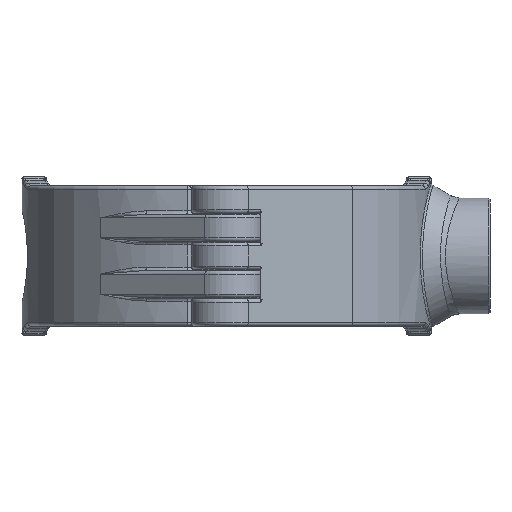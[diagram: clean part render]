
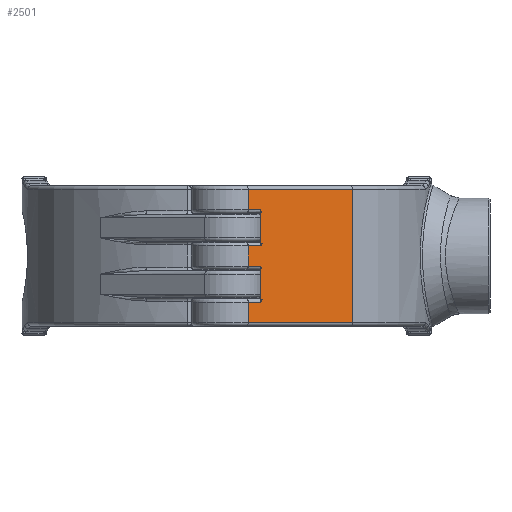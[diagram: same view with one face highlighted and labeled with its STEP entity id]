
A CAD part, front view. The second image highlights one B-rep face of the part: STEP entity #2501.
In plain terms, the highlighted planar face has unit normal (0.616, -0.788, 0).
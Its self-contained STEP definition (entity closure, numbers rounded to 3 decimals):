
#2501=ADVANCED_FACE('',(#3466),#2936,.F.);
#2936=PLANE('',#13825);
#3466=FACE_OUTER_BOUND('',#4377,.T.);
#4377=EDGE_LOOP('',(#7565,#7566,#7567,#7568,#7569,#7570,#7571,#7572,#7573,
#7574,#7575,#7576));
#7565=ORIENTED_EDGE('',*,*,#11295,.F.);
#7566=ORIENTED_EDGE('',*,*,#11296,.T.);
#7567=ORIENTED_EDGE('',*,*,#10862,.F.);
#7568=ORIENTED_EDGE('',*,*,#11297,.T.);
#7569=ORIENTED_EDGE('',*,*,#10791,.T.);
#7570=ORIENTED_EDGE('',*,*,#11298,.T.);
#7571=ORIENTED_EDGE('',*,*,#10808,.F.);
#7572=ORIENTED_EDGE('',*,*,#11299,.T.);
#7573=ORIENTED_EDGE('',*,*,#11300,.F.);
#7574=ORIENTED_EDGE('',*,*,#11301,.T.);
#7575=ORIENTED_EDGE('',*,*,#10802,.F.);
#7576=ORIENTED_EDGE('',*,*,#11302,.T.);
#9334=VERTEX_POINT('',#24106);
#9335=VERTEX_POINT('',#24108);
#9345=VERTEX_POINT('',#24156);
#9346=VERTEX_POINT('',#24158);
#9351=VERTEX_POINT('',#24170);
#9352=VERTEX_POINT('',#24172);
#9403=VERTEX_POINT('',#24409);
#9404=VERTEX_POINT('',#24410);
#9789=VERTEX_POINT('',#27460);
#9790=VERTEX_POINT('',#27461);
#9791=VERTEX_POINT('',#27466);
#9792=VERTEX_POINT('',#27468);
#10791=EDGE_CURVE('',#9335,#9334,#11959,.T.);
#10802=EDGE_CURVE('',#9345,#9346,#11963,.T.);
#10808=EDGE_CURVE('',#9351,#9352,#11965,.T.);
#10862=EDGE_CURVE('',#9403,#9404,#11981,.T.);
#11295=EDGE_CURVE('',#9789,#9790,#12168,.T.);
#11296=EDGE_CURVE('',#9789,#9404,#12169,.T.);
#11297=EDGE_CURVE('',#9403,#9335,#12170,.T.);
#11298=EDGE_CURVE('',#9334,#9352,#12171,.T.);
#11299=EDGE_CURVE('',#9351,#9791,#12172,.T.);
#11300=EDGE_CURVE('',#9792,#9791,#12173,.T.);
#11301=EDGE_CURVE('',#9792,#9346,#12174,.T.);
#11302=EDGE_CURVE('',#9345,#9790,#12175,.T.);
#11959=LINE('',#24107,#12454);
#11963=LINE('',#24157,#12458);
#11965=LINE('',#24171,#12460);
#11981=LINE('',#24408,#12476);
#12168=LINE('',#27459,#12663);
#12169=LINE('',#27462,#12664);
#12170=LINE('',#27463,#12665);
#12171=LINE('',#27464,#12666);
#12172=LINE('',#27465,#12667);
#12173=LINE('',#27467,#12668);
#12174=LINE('',#27469,#12669);
#12175=LINE('',#27470,#12670);
#12454=VECTOR('',#16298,1.);
#12458=VECTOR('',#16312,1.);
#12460=VECTOR('',#16326,1.);
#12476=VECTOR('',#16414,1.);
#12663=VECTOR('',#17093,1.);
#12664=VECTOR('',#17094,1.);
#12665=VECTOR('',#17095,1.);
#12666=VECTOR('',#17096,1.);
#12667=VECTOR('',#17097,1.);
#12668=VECTOR('',#17098,1.);
#12669=VECTOR('',#17099,1.);
#12670=VECTOR('',#17100,1.);
#13825=AXIS2_PLACEMENT_3D('',#27471,#17101,#17102);
#16298=DIRECTION('',(0.,0.,1.));
#16312=DIRECTION('',(0.,0.,1.));
#16326=DIRECTION('',(0.,0.,1.));
#16414=DIRECTION('',(0.,0.,1.));
#17093=DIRECTION('',(0.,0.,1.));
#17094=DIRECTION('',(-0.788,-0.616,0.));
#17095=DIRECTION('',(0.788,0.616,0.));
#17096=DIRECTION('',(-0.788,-0.616,0.));
#17097=DIRECTION('',(0.788,0.616,0.));
#17098=DIRECTION('',(0.,0.,1.));
#17099=DIRECTION('',(-0.788,-0.616,0.));
#17100=DIRECTION('',(0.788,0.616,0.));
#17101=DIRECTION('',(-0.616,0.788,0.));
#17102=DIRECTION('',(-0.788,-0.616,0.));
#24106=CARTESIAN_POINT('',(28.381,25.613,19.));
#24107=CARTESIAN_POINT('',(28.381,25.613,-15.));
#24108=CARTESIAN_POINT('',(28.381,25.613,-19.));
#24156=CARTESIAN_POINT('',(-1.34,2.372,-2.85));
#24157=CARTESIAN_POINT('',(-1.34,2.372,-15.));
#24158=CARTESIAN_POINT('',(-1.34,2.372,2.85));
#24170=CARTESIAN_POINT('',(-1.34,2.372,13.15));
#24171=CARTESIAN_POINT('',(-1.34,2.372,-15.));
#24172=CARTESIAN_POINT('',(-1.34,2.372,19.));
#24408=CARTESIAN_POINT('',(-1.34,2.372,-15.));
#24409=CARTESIAN_POINT('',(-1.34,2.372,-19.));
#24410=CARTESIAN_POINT('',(-1.34,2.372,-13.15));
#27459=CARTESIAN_POINT('',(2.27,5.195,-12.15));
#27460=CARTESIAN_POINT('',(2.27,5.195,-13.15));
#27461=CARTESIAN_POINT('',(2.27,5.195,-2.85));
#27462=CARTESIAN_POINT('',(28.381,25.613,-13.15));
#27463=CARTESIAN_POINT('',(28.381,25.613,-19.));
#27464=CARTESIAN_POINT('',(28.381,25.613,19.));
#27465=CARTESIAN_POINT('',(2.27,5.195,13.15));
#27466=CARTESIAN_POINT('',(2.27,5.195,13.15));
#27467=CARTESIAN_POINT('',(2.27,5.195,3.85));
#27468=CARTESIAN_POINT('',(2.27,5.195,2.85));
#27469=CARTESIAN_POINT('',(28.381,25.613,2.85));
#27470=CARTESIAN_POINT('',(2.27,5.195,-2.85));
#27471=CARTESIAN_POINT('',(28.381,25.613,-15.));
